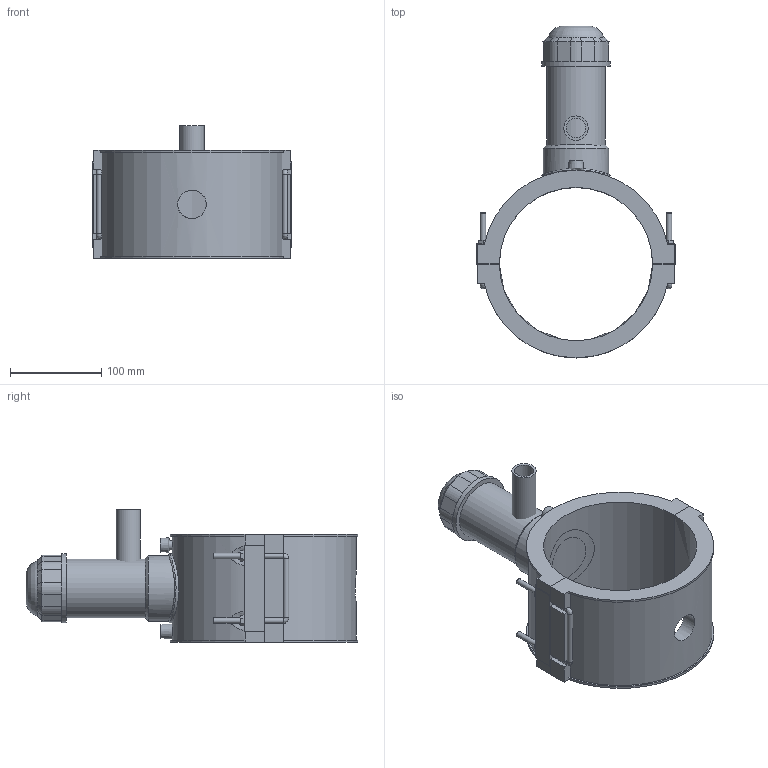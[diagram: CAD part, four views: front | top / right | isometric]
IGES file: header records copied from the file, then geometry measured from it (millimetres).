
Global section: file name: 5963BBP3060007.ipt; native system: Autodesk Inventor 2019; preprocessor: unknown; author: KIM; date: 20210830.101540; units: inch
Bounding box: 217.9 x 363.85 x 145.16 mm (x, y, z)
Volume: 1597895.8 mm3; surface area: 271144.1 mm2
Topology: 3 solids, 4 shells, 185 faces, 464 edges, 293 vertices
Faces by surface type: plane 115, cylinder 33, cone 15, revolution 13, bspline 9
Full cylindrical faces by diameter (mm): 4 x2, 6 x10, 26.6 x1, 64.26 x1, 71.82 x1, 75.6 x2
